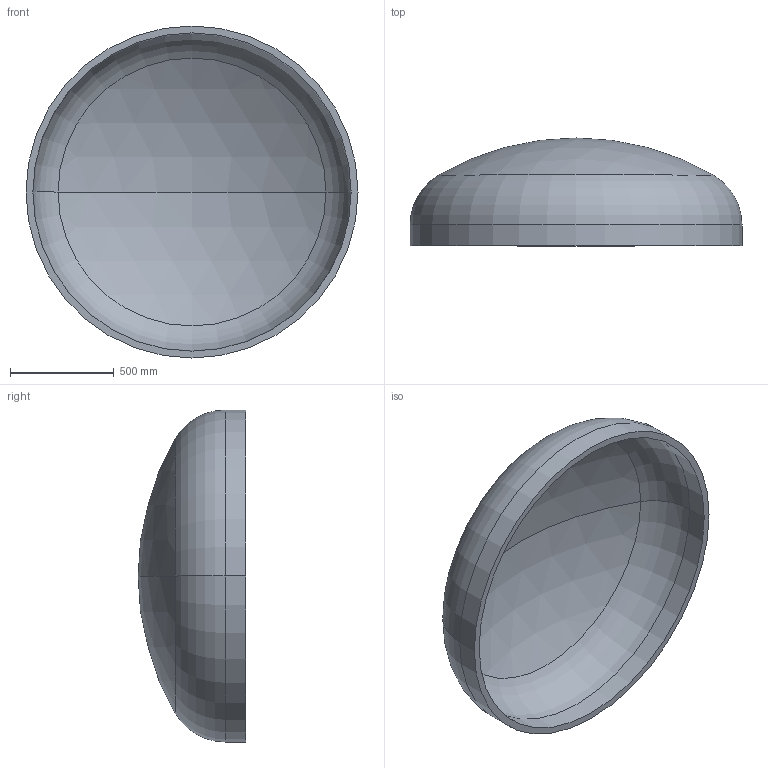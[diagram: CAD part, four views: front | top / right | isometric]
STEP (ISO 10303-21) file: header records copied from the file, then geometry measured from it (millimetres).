
FILE_DESCRIPTION (( 'STEP AP203' ), '1' );
FILE_NAME ('DIN 28013 Korbbogenform_-_Boden DIN 28013 - 1600 x 100 - I - s=33.step', '2016-07-01T11:13:04', ( '' ), ( '' ), 'SwSTEP 2.0', 'SolidWorks 2013', '' );
FILE_SCHEMA (( 'CONFIG_CONTROL_DESIGN' ));
Length unit declared in the file: millimetre
Products named in the file (1): DIN 28013 Korbbogenform_-_Boden DIN 28013 - 1600 x 100 - I - s=33
Bounding box: 1600 x 519.28 x 1600 mm (x, y, z)
Volume: 105578367.3 mm3; surface area: 6563422.6 mm2
Topology: 1 solids, 1 shells, 13 faces, 24 edges, 14 vertices
Faces by surface type: torus 4, cylinder 4, sphere 4, plane 1
Entity records: 407 total; most frequent: DIRECTION 72, CARTESIAN_POINT 52, ORIENTED_EDGE 48, AXIS2_PLACEMENT_3D 34, EDGE_CURVE 24, CIRCLE 20, EDGE_LOOP 14, VERTEX_POINT 14
